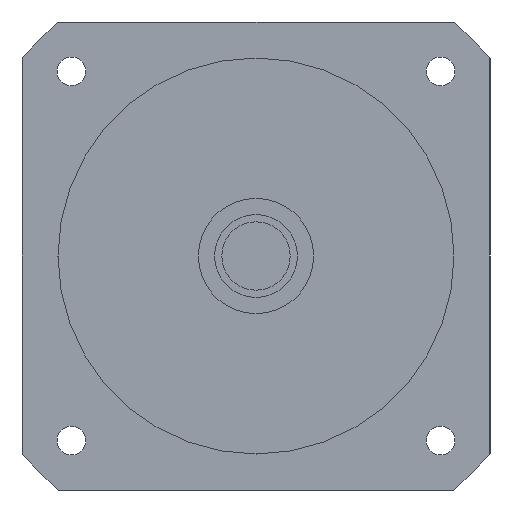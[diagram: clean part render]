
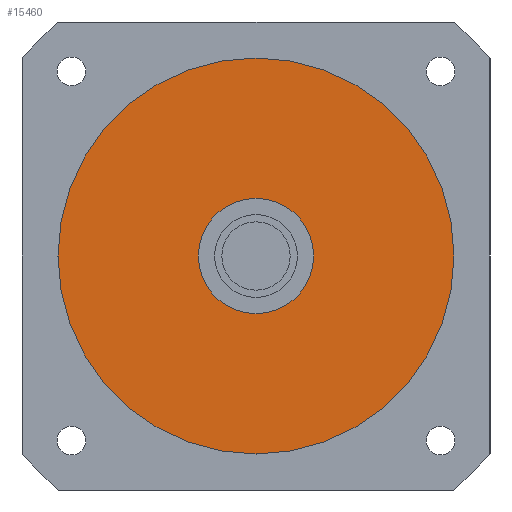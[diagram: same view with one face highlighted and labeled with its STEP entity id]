
A CAD part, left-side view. The second image highlights one B-rep face of the part: STEP entity #15460.
In plain terms, the highlighted planar face has unit normal (-1, 0, 0) as drawn and (0, 0, -1) by its records, which use the part's own axes.
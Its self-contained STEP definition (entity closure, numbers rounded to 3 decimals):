
#14880=CARTESIAN_POINT('',(55.,0.,-54.2));
#14890=VERTEX_POINT('',#14880);
#14980=CARTESIAN_POINT('',(-55.,0.,-54.2));
#14990=VERTEX_POINT('',#14980);
#15020=CARTESIAN_POINT('',(0.,0.,
-54.2));
#15030=DIRECTION('',(0.,0.,1.));
#15040=DIRECTION('',(0.,1.,0.));
#15050=AXIS2_PLACEMENT_3D('',#15020,#15030,#15040);
#15060=CIRCLE('',#15050,55.);
#15070=CARTESIAN_POINT('',(0.,55.,-54.2));
#15080=VERTEX_POINT('',#15070);
#15090=EDGE_CURVE('',#15080,#14990,#15060,.T.);
#15110=EDGE_CURVE('',#14890,#15080,#15060,.T.);
#15160=CARTESIAN_POINT('',(0.,0.,
-54.2));
#15170=DIRECTION('',(0.,0.,1.));
#15180=DIRECTION('',(-1.,0.,0.));
#15190=AXIS2_PLACEMENT_3D('',#15160,#15170,#15180);
#15200=PLANE('',#15190);
#15210=ORIENTED_EDGE('',*,*,#15090,.F.);
#15220=EDGE_CURVE('',#14990,#14890,#15060,.T.);
#15230=ORIENTED_EDGE('',*,*,#15220,.F.);
#15240=ORIENTED_EDGE('',*,*,#15110,.F.);
#15250=EDGE_LOOP('',(#15240,#15230,#15210));
#15260=FACE_OUTER_BOUND('',#15250,.T.);
#15270=CARTESIAN_POINT('',(0.,0.,
-54.2));
#15280=DIRECTION('',(0.,0.,1.));
#15290=DIRECTION('',(0.,1.,0.));
#15300=AXIS2_PLACEMENT_3D('',#15270,#15280,#15290);
#15310=CIRCLE('',#15300,16.);
#15320=CARTESIAN_POINT('',(-16.,0.,-54.2));
#15330=VERTEX_POINT('',#15320);
#15340=CARTESIAN_POINT('',(16.,0.,-54.2));
#15350=VERTEX_POINT('',#15340);
#15360=EDGE_CURVE('',#15330,#15350,#15310,.T.);
#15370=ORIENTED_EDGE('',*,*,#15360,.T.);
#15380=CARTESIAN_POINT('',(0.,16.,-54.2));
#15390=VERTEX_POINT('',#15380);
#15400=EDGE_CURVE('',#15390,#15330,#15310,.T.);
#15410=ORIENTED_EDGE('',*,*,#15400,.T.);
#15420=EDGE_CURVE('',#15350,#15390,#15310,.T.);
#15430=ORIENTED_EDGE('',*,*,#15420,.T.);
#15440=EDGE_LOOP('',(#15430,#15410,#15370));
#15450=FACE_BOUND('',#15440,.T.);
#15460=ADVANCED_FACE('',(#15260,#15450),#15200,.F.);
